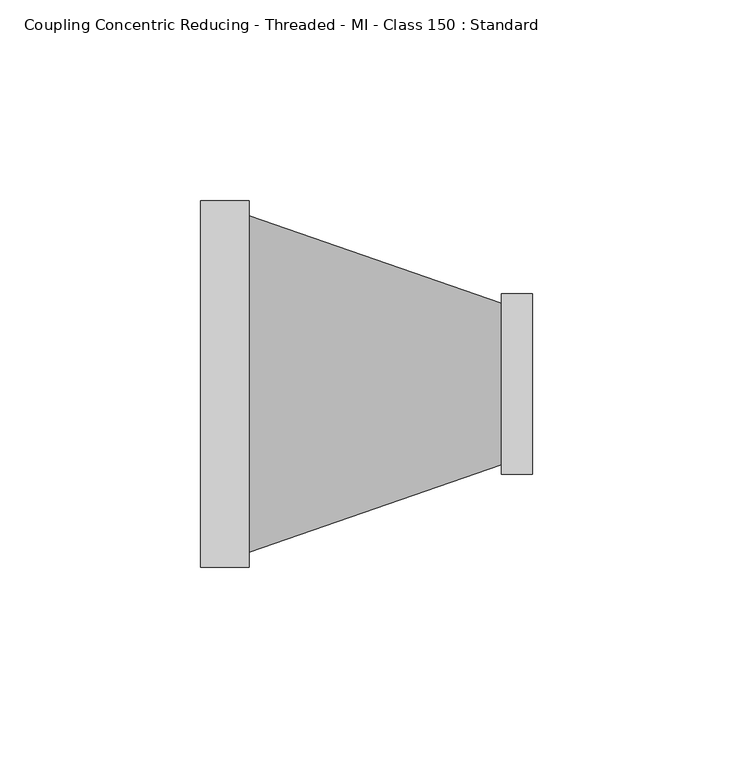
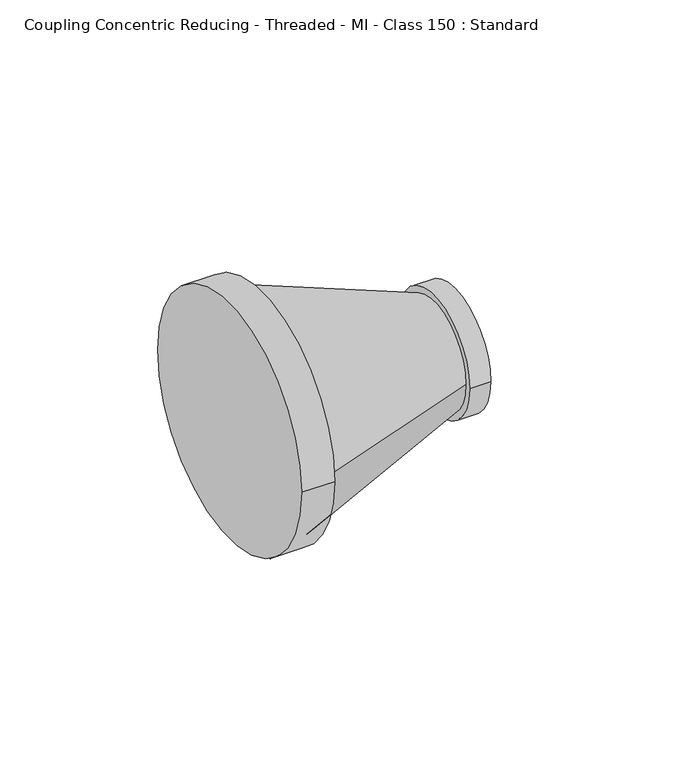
"""IFC4 building model written with IfcOpenShell, lengths in millimetres: pipe fitting geometry, Coupling Concentric Reducing - Threaded - MI - Class 150 : Standard."""

from ifc_helpers import new_model, si_unit, frame, origin, place, context, project, spatial, polyline, circle_curve, source, transform, mapped, element, save
from ifc_brep_helpers import plane_surface, cylinder_surface, revolved_surface, advanced_brep


def coupling_concentric_reducing_threaded_mi_class_150_standard_c36a9f6e(model_context):
    return source(origin(), model_context, "Body", "AdvancedBrep", [
        advanced_brep(
        [(12.1, 41.83, 0.0), (74.9, 20.1, 0.0), (74.9, -20.1, 0.0), (12.1, -41.83, 0.0), (82.6, -22.5, 0.0), (82.6, 22.5, 0.0), (74.9, -22.5, 0.0), (74.9, 22.5, 0.0), (12.1, -45.6, 0.0), (12.1, 45.6, 0.0), (0.0, -45.6, 0.0), (0.0, 45.6, 0.0)],
        [
            (0, 1),
            (1, 2, circle_curve(frame((74.9, 0.0, 0.0), z_axis=(-1.0, 0.0, 0.0), x_axis=(0.0, -1.0, 0.0)), 20.1)),
            (2, 3),
            (3, 0, circle_curve(frame((12.1, 0.0, 0.0), z_axis=(1.0, 0.0, 0.0), x_axis=(0.0, -1.0, 0.0)), 41.83)),
            (0, 3, circle_curve(frame((12.1, 0.0, 0.0), z_axis=(1.0, 0.0, 0.0), x_axis=(0.0, 1.0, 0.0)), 41.83)),
            (2, 1, circle_curve(frame((74.9, 0.0, 0.0), z_axis=(-1.0, 0.0, 0.0), x_axis=(0.0, 1.0, 0.0)), 20.1)),
            (4, 5, circle_curve(frame((82.6, 0.0, 0.0), z_axis=(1.0, 0.0, 0.0), x_axis=(0.0, 1.0, 0.0)), 22.5)),
            (5, 4, circle_curve(frame((82.6, 0.0, 0.0), z_axis=(1.0, 0.0, 0.0), x_axis=(0.0, 1.0, 0.0)), 22.5)),
            (6, 7, circle_curve(frame((74.9, 0.0, 0.0), z_axis=(-1.0, 0.0, 0.0), x_axis=(0.0, 1.0, 0.0)), 22.5)),
            (7, 6, circle_curve(frame((74.9, 0.0, 0.0), z_axis=(-1.0, 0.0, 0.0), x_axis=(0.0, 1.0, 0.0)), 22.5)),
            (4, 6),
            (7, 5),
            (8, 9, circle_curve(frame((12.1, 0.0, 0.0), z_axis=(1.0, 0.0, 0.0), x_axis=(0.0, 1.0, 0.0)), 45.6)),
            (9, 8, circle_curve(frame((12.1, 0.0, 0.0), z_axis=(1.0, 0.0, 0.0), x_axis=(0.0, 1.0, 0.0)), 45.6)),
            (10, 11, circle_curve(frame((0.0, 0.0, 0.0), z_axis=(-1.0, 0.0, 0.0), x_axis=(0.0, 1.0, 0.0)), 45.6)),
            (11, 10, circle_curve(frame((0.0, 0.0, 0.0), z_axis=(-1.0, 0.0, 0.0), x_axis=(0.0, 1.0, 0.0)), 45.6)),
            (8, 10),
            (11, 9),
        ],
        [
            revolved_surface(polyline([(74.9, 20.100000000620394, 0.0), (12.099999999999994, 41.83, 0.0)]), (132.9892775, 0.0, 0.0), (-1.0, 0.0, 0.0)),
            plane_surface(frame((82.6, 22.5, 0.0), z_axis=(1.0, 0.0, 0.0), x_axis=(0.0, 0.0, 1.0))),
            plane_surface(frame((74.9, 22.5, 0.0), z_axis=(-1.0, 0.0, 0.0), x_axis=(0.0, 0.0, -1.0))),
            cylinder_surface(frame((74.9, 0.0, 0.0), z_axis=(1.0, 0.0, 0.0), x_axis=(0.0, 1.0, 0.0)), 22.5),
            plane_surface(frame((12.1, 45.6, 0.0), z_axis=(1.0, 0.0, 0.0), x_axis=(0.0, 0.0, 1.0))),
            plane_surface(frame((0.0, 45.6, 0.0), z_axis=(-1.0, 0.0, 0.0), x_axis=(0.0, 0.0, -1.0))),
            cylinder_surface(frame((0.0, 0.0, 0.0), z_axis=(1.0, 0.0, 0.0), x_axis=(0.0, 1.0, 0.0)), 45.6),
        ],
        [
            (0, [[1, 2, 3, 4]]),
            (0, [[-1, 5, -3, 6]]),
            (1, [[7, 8]]),
            (2, [[9, 10], [-2, -6]]),
            (3, [[-7, 11, -10, 12]]),
            (3, [[-8, -12, -9, -11]]),
            (4, [[13, 14], [-4, -5]]),
            (5, [[15, 16]]),
            (6, [[-13, 17, -16, 18]]),
            (6, [[-14, -18, -15, -17]]),
        ],
    ),
    ])


if __name__ == "__main__":
    model = new_model("IFC4")
    model_context = context("Model", 3, world=origin())
    ifc_project = project(units=[si_unit("LENGTHUNIT", "METRE", prefix="MILLI")], contexts=[model_context])
    site = spatial("IfcSite", under=ifc_project)
    building = spatial("IfcBuilding", under=site)
    placement = place(None, origin())
    coupling_concentric_reducing_threaded_mi_class_150_standard_shape = coupling_concentric_reducing_threaded_mi_class_150_standard_c36a9f6e(model_context)
    element("IfcPipeFitting", 1, ObjectType="Coupling Concentric Reducing - Threaded - MI - Class 150 : Standard", at=placement, inside=building, context=model_context, shape_type="MappedRepresentation", body=[
        mapped(coupling_concentric_reducing_threaded_mi_class_150_standard_shape, transform((0.0, 0.0, 0.0), x_axis=(1.0, 0.0, 0.0), y_axis=(0.0, 1.0, 0.0), z_axis=(0.0, 0.0, 1.0))),
    ])
    save(model, "model.ifc")
